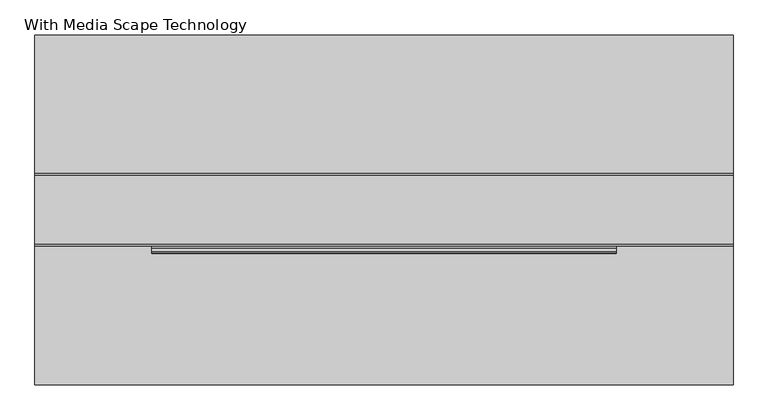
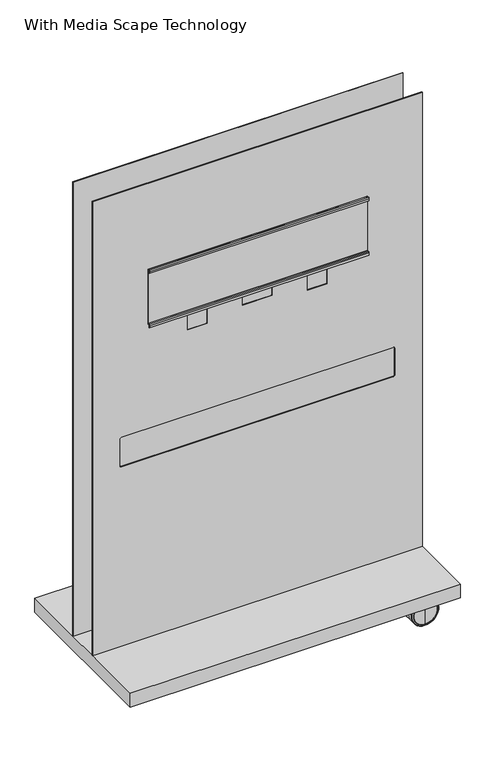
"""IFC4 building model written with IfcOpenShell, lengths in millimetres: furniture geometry, Steelcase Coalesse - Exponents - Storage - Mobile Display Board : With Media Scape Technology."""

from ifc_helpers import new_model, si_unit, point, frame, frame_2d, origin, place, context, project, spatial, polyline, circle_curve, ellipse_curve, trimmed, segment, composite_curve, outline, extrude, faceted_brep, source, transform, mapped, element, save
from ifc_brep_helpers import plane_surface, cylinder_surface, revolved_surface, advanced_brep


def with_media_scape_technology_7c12549f(model_context):
    return source(origin(), model_context, "Body", "SolidModel", [
        extrude(outline(polyline([(1219.2, 231.2568925), (0.0, 231.2568925), (0.0, 233.7968925), (1219.2, 233.7968925), (1219.2, 231.2568925)])), frame((0.0, 0.0, 155.2702), z_axis=(0.0, 0.0, 1.0), x_axis=(1.0, 0.0, 0.0)), (0.0, 0.0, 1.0), 1773.428),
        extrude(outline(polyline([(1928.6982, 1219.2), (1928.6982, 0.0), (155.2702, 0.0), (155.2702, 1219.2), (1928.6982, 1219.2)]), holes=[polyline([(1376.705357, 351.6850016), (1376.705357, 424.2850033), (1304.1054279, 424.2850033), (1304.1054279, 351.6850016), (1376.705357, 351.6850016)]), polyline([(1380.3122589, 664.3150105), (1329.512162, 664.3150105), (1329.512162, 554.8849895), (1380.3122589, 554.8849895), (1380.3122589, 664.3150105)]), polyline([(1376.705357, 867.5149984), (1304.1054279, 867.5149984), (1304.1054279, 794.9149967), (1376.705357, 794.9149967), (1376.705357, 867.5149984)]), composite_curve([segment(polyline([(969.6054239, 107.950003), (969.6054239, 1111.249997)]), True, "CONTINUOUS"), segment(trimmed(circle_curve(frame_2d((963.2554239, 1111.249997)), 6.35), [point((969.6054239, 1111.249997))], [point((963.2554239, 1117.599997))], True, "CARTESIAN"), True, "CONTINUOUS"), segment(polyline([(963.2554239, 1117.599997), (861.6554239, 1117.599997)]), True, "CONTINUOUS"), segment(trimmed(circle_curve(frame_2d((861.6554239, 1111.249997)), 6.35), [point((861.6554239, 1117.599997))], [point((855.3054239, 1111.249997))], True, "CARTESIAN"), True, "CONTINUOUS"), segment(polyline([(855.3054239, 1111.249997), (855.3054239, 107.950003)]), True, "CONTINUOUS"), segment(trimmed(circle_curve(frame_2d((861.6554239, 107.950003)), 6.35), [point((855.3054239, 107.950003))], [point((861.6554239, 101.600003))], True, "CARTESIAN"), True, "CONTINUOUS"), segment(polyline([(861.6554239, 101.600003), (963.2554239, 101.600003)]), True, "CONTINUOUS"), segment(trimmed(circle_curve(frame_2d((963.2554239, 107.950003)), 6.35), [point((963.2554239, 101.600003))], [point((969.6054239, 107.950003))], True, "CARTESIAN"), True, "CONTINUOUS")], self_intersect=False)]), frame((0.0, 106.7968683, 0.0), z_axis=(0.0, 1.0, 0.0), x_axis=(0.0, 0.0, 1.0)), (0.0, 0.0, 1.0), 2.54),
        extrude(outline(composite_curve([segment(polyline([(94.452491, 1584.0963318), (94.452491, 1591.6403974)]), True, "CONTINUOUS"), segment(trimmed(circle_curve(frame_2d((97.8304331, 1591.6403974)), 3.3779422), [point((94.452491, 1591.6403974))], [point((97.8304331, 1595.0183395))], False, "CARTESIAN"), True, "CONTINUOUS"), segment(polyline([(97.8304331, 1595.0183395), (103.7812926, 1595.0183395)]), True, "CONTINUOUS"), segment(trimmed(circle_curve(frame_2d((103.7812926, 1592.0027454)), 3.0155942), [point((103.7812926, 1595.0183395))], [point((106.7968868, 1592.0027454))], False, "CARTESIAN"), True, "CONTINUOUS"), segment(polyline([(106.7968868, 1592.0027454), (106.7968868, 1383.609313)]), True, "CONTINUOUS"), segment(trimmed(circle_curve(frame_2d((103.8807688, 1383.609313)), 2.9161181), [point((106.7968868, 1383.609313))], [point((103.8807688, 1380.693195))], False, "CARTESIAN"), True, "CONTINUOUS"), segment(polyline([(103.8807688, 1380.693195), (97.9328471, 1380.693195)]), True, "CONTINUOUS"), segment(trimmed(circle_curve(frame_2d((97.9328471, 1379.7020401)), 0.9911549), [point((97.9328471, 1380.693195))], [point((96.9416922, 1379.7020401))], True, "CARTESIAN"), True, "CONTINUOUS"), segment(polyline([(96.9416922, 1379.7020401), (96.9416922, 1371.3459457), (94.2747039, 1371.3459457), (94.2747039, 1380.1154779)]), True, "CONTINUOUS"), segment(trimmed(circle_curve(frame_2d((97.5194093, 1380.1154779)), 3.2447054), [point((94.2747039, 1380.1154779))], [point((97.5194093, 1383.3601833))], False, "CARTESIAN"), True, "CONTINUOUS"), segment(polyline([(97.5194093, 1383.3601833), (103.3727516, 1383.3601833)]), True, "CONTINUOUS"), segment(trimmed(circle_curve(frame_2d((103.3727516, 1384.1173116)), 0.7571283), [point((103.3727516, 1383.3601833))], [point((104.1298799, 1384.1173116))], True, "CARTESIAN"), True, "CONTINUOUS"), segment(polyline([(104.1298799, 1384.1173116), (104.1298799, 1591.8476878)]), True, "CONTINUOUS"), segment(trimmed(circle_curve(frame_2d((103.6262165, 1591.8476878)), 0.5036634), [point((104.1298799, 1591.8476878))], [point((103.6262165, 1592.3513512))], True, "CARTESIAN"), True, "CONTINUOUS"), segment(polyline([(103.6262165, 1592.3513512), (98.3051511, 1592.3513512)]), True, "CONTINUOUS"), segment(trimmed(circle_curve(frame_2d((98.3051511, 1591.1656794)), 1.1856717), [point((98.3051511, 1592.3513512))], [point((97.1194793, 1591.1656794))], True, "CARTESIAN"), True, "CONTINUOUS"), segment(polyline([(97.1194793, 1591.1656794), (97.1194793, 1584.0963318), (94.452491, 1584.0963318)]), True, "CONTINUOUS")], self_intersect=False)), frame((203.835, 0.0, 0.0), z_axis=(1.0, 0.0, 0.0), x_axis=(0.0, 1.0, 0.0)), (0.0, 0.0, 1.0), 811.53),
        advanced_brep(
        [(1117.599997, -28.9699484, 93.7248565), (1117.599997, -28.9699484, 7.16417), (1117.599997, -28.9699484, 50.4445132), (1117.599997, -29.195866, 95.950615), (1117.599997, -29.195866, 4.9384115), (1117.599997, -31.890984, 99.0695917), (1117.599997, -31.890984, 1.8194348), (1117.599997, -31.890984, 100.8890265), (1117.599997, -31.890984, 0.0), (1117.599997, -47.5881484, 100.8890265), (1117.599997, -47.5881484, 0.0), (1117.599997, -47.5881484, 67.9452274), (1117.599997, -47.5881484, 32.943799), (1117.599997, -51.5441984, 67.9452274), (1117.599997, -51.5441984, 32.943799), (1117.599997, -51.5441984, 50.4445132)],
        [
            (0, 1, circle_curve(frame((1117.599997, -28.9699484, 50.4445132), z_axis=(0.0, 1.0, 0.0), x_axis=(0.0, 0.0, -1.0)), 43.2803433)),
            (1, 2),
            (2, 0),
            (1, 0, circle_curve(frame((1117.599997, -28.9699484, 50.4445132), z_axis=(0.0, 1.0, 0.0), x_axis=(0.0, 0.0, -1.0)), 43.2803433)),
            (3, 4, circle_curve(frame((1117.599997, -29.195866, 50.4445132), z_axis=(0.0, 1.0, 0.0), x_axis=(0.0, 0.0, -1.0)), 45.5061018)),
            (4, 1, circle_curve(frame((1117.599997, -40.0470836, 7.16417), z_axis=(1.0, 0.0, 0.0), x_axis=(0.0, 1.0, 0.0)), 11.0771352)),
            (0, 3, circle_curve(frame((1117.599997, -40.0470836, 93.7248565), z_axis=(1.0, 0.0, 0.0), x_axis=(0.0, 1.0, 0.0)), 11.0771352)),
            (4, 3, circle_curve(frame((1117.599997, -29.195866, 50.4445132), z_axis=(0.0, 1.0, 0.0), x_axis=(0.0, 0.0, -1.0)), 45.5061018)),
            (5, 6, circle_curve(frame((1117.599997, -31.890984, 50.4445132), z_axis=(0.0, 1.0, 0.0), x_axis=(0.0, 0.0, -1.0)), 48.6250784)),
            (6, 4, circle_curve(frame((1117.599997, -33.3293578, 5.7862568), z_axis=(1.0, 0.0, 0.0), x_axis=(0.0, 1.0, 0.0)), 4.2195493)),
            (3, 5, circle_curve(frame((1117.599997, -33.3293578, 95.1027696), z_axis=(1.0, 0.0, 0.0), x_axis=(0.0, 1.0, 0.0)), 4.2195493)),
            (6, 5, circle_curve(frame((1117.599997, -31.890984, 50.4445132), z_axis=(0.0, 1.0, 0.0), x_axis=(0.0, 0.0, -1.0)), 48.6250784)),
            (7, 8, circle_curve(frame((1117.599997, -31.890984, 50.4445132), z_axis=(0.0, 1.0, 0.0), x_axis=(0.0, 0.0, -1.0)), 50.4445132)),
            (8, 6),
            (5, 7),
            (8, 7, circle_curve(frame((1117.599997, -31.890984, 50.4445132), z_axis=(0.0, 1.0, 0.0), x_axis=(0.0, 0.0, -1.0)), 50.4445132)),
            (9, 10, circle_curve(frame((1117.599997, -47.5881484, 50.4445132), z_axis=(0.0, 1.0, 0.0), x_axis=(0.0, 0.0, -1.0)), 50.4445132)),
            (10, 8),
            (7, 9),
            (10, 9, circle_curve(frame((1117.599997, -47.5881484, 50.4445132), z_axis=(0.0, 1.0, 0.0), x_axis=(0.0, 0.0, -1.0)), 50.4445132)),
            (11, 12, circle_curve(frame((1117.599997, -47.5881484, 50.4445132), z_axis=(0.0, 1.0, 0.0), x_axis=(0.0, 0.0, -1.0)), 17.5007142)),
            (12, 10),
            (9, 11),
            (12, 11, circle_curve(frame((1117.599997, -47.5881484, 50.4445132), z_axis=(0.0, 1.0, 0.0), x_axis=(0.0, 0.0, -1.0)), 17.5007142)),
            (13, 14, circle_curve(frame((1117.599997, -51.5441984, 50.4445132), z_axis=(0.0, 1.0, 0.0), x_axis=(0.0, 0.0, -1.0)), 17.5007142)),
            (14, 12),
            (11, 13),
            (14, 13, circle_curve(frame((1117.599997, -51.5441984, 50.4445132), z_axis=(0.0, 1.0, 0.0), x_axis=(0.0, 0.0, -1.0)), 17.5007142)),
            (15, 14),
            (13, 15),
        ],
        [
            plane_surface(frame((1117.599997, -28.9699484, 50.4445132), z_axis=(0.0, 1.0, 0.0), x_axis=(0.0, 0.0, -1.0))),
            revolved_surface(trimmed(ellipse_curve(frame((1117.599997, -40.0470836, 7.16417), z_axis=(-1.0, 0.0, 0.0), x_axis=(0.0, 1.0, 0.0)), 11.0771352, 11.0771352), [point((1117.599997, -28.9699484, 7.16417))], [point((1117.599997, -29.195866, 4.9384115))], True, "CARTESIAN"), (1117.599997, -32.3354484, 50.4445132), (0.0, -1.0, 0.0)),
            revolved_surface(trimmed(ellipse_curve(frame((1117.599997, -33.3293578, 5.7862568), z_axis=(-1.0, 0.0, 0.0), x_axis=(0.0, 1.0, 0.0)), 4.2195493, 4.2195493), [point((1117.599997, -29.195866, 4.9384115))], [point((1117.599997, -31.890984, 1.8194348))], True, "CARTESIAN"), (1117.599997, -32.3354484, 50.4445132), (0.0, -1.0, 0.0)),
            plane_surface(frame((1117.599997, -31.890984, 50.4445132), z_axis=(0.0, 1.0, 0.0), x_axis=(0.0, 0.0, -1.0))),
            cylinder_surface(frame((1117.599997, -32.3354484, 50.4445132), z_axis=(0.0, -1.0, 0.0), x_axis=(0.0, 0.0, -1.0)), 50.4445132),
            plane_surface(frame((1117.599997, -47.5881484, 50.4445132), z_axis=(0.0, -1.0, 0.0), x_axis=(0.0, 0.0, -1.0))),
            cylinder_surface(frame((1117.599997, -32.3354484, 50.4445132), z_axis=(0.0, -1.0, 0.0), x_axis=(0.0, 0.0, -1.0)), 17.5007142),
            plane_surface(frame((1117.599997, -51.5441984, 50.4445132), z_axis=(0.0, -1.0, 0.0), x_axis=(0.0, 0.0, -1.0))),
        ],
        [
            (0, [[1, 2, 3]]),
            (0, [[4, -3, -2]]),
            (1, [[5, 6, -1, 7]]),
            (1, [[8, -7, -4, -6]]),
            (2, [[9, 10, -5, 11]]),
            (2, [[12, -11, -8, -10]]),
            (3, [[13, 14, -9, 15]]),
            (3, [[16, -15, -12, -14]]),
            (4, [[17, 18, -13, 19]]),
            (4, [[20, -19, -16, -18]]),
            (5, [[21, 22, -17, 23]]),
            (5, [[24, -23, -20, -22]]),
            (6, [[25, 26, -21, 27]]),
            (6, [[28, -27, -24, -26]]),
            (7, [[29, -25, 30]]),
            (7, [[-30, -28, -29]]),
        ],
    ),
        extrude(outline(composite_curve([segment(polyline([(51.3715027, 1147.8132923), (28.4632097, 1147.8132923)]), True, "CONTINUOUS"), segment(trimmed(circle_curve(frame_2d((55.7451933, 1115.4082185)), 42.360305), [point((28.4632097, 1147.8132923))], [point((92.46506, 1136.5280393))], False, "CARTESIAN"), True, "CONTINUOUS"), segment(trimmed(circle_curve(frame_2d((52.6047711, 1117.4750938)), 44.1798299), [point((92.46506, 1136.5280393))], [point((51.3715027, 1073.3124804))], False, "CARTESIAN"), True, "CONTINUOUS"), segment(polyline([(51.3715027, 1073.3124804), (51.3715027, 1147.8132923)]), True, "CONTINUOUS")], self_intersect=False)), frame((0.0, -71.1936132, 0.0), z_axis=(0.0, 1.0, 0.0), x_axis=(0.0, 0.0, 1.0)), (0.0, 0.0, 1.0), 23.6054648),
        extrude(outline(composite_curve([segment(trimmed(circle_curve(frame_2d((1103.2846799, -59.3908808)), 7.6088517), [point((1103.2846799, -51.7820291))], [point((1103.2846799, -66.9997325))], False, "CARTESIAN"), True, "CONTINUOUS"), segment(trimmed(circle_curve(frame_2d((1103.2846799, -59.3908808)), 7.6088517), [point((1103.2846799, -66.9997325))], [point((1103.2846799, -51.7820291))], False, "CARTESIAN"), True, "CONTINUOUS")], self_intersect=False)), frame((0.0, 0.0, 71.2879049), z_axis=(0.0, 0.0, 1.0), x_axis=(1.0, 0.0, 0.0)), (0.0, 0.0, 1.0), 48.3206977),
        extrude(outline(polyline([(1130.9222923, -86.9387325), (1075.8042923, -86.9387325), (1075.8042923, -31.8207325), (1130.9222923, -31.8207325), (1130.9222923, -86.9387325)])), frame((0.0, 0.0, 119.6086027), z_axis=(0.0, 0.0, 1.0), x_axis=(1.0, 0.0, 0.0)), (0.0, 0.0, 1.0), 3.302),
        advanced_brep(
        [(1117.599997, -67.2375632, 67.9452274), (1117.599997, -67.2375632, 32.943799), (1117.599997, -67.2375632, 50.4445132), (1117.599997, -71.1936132, 67.9452274), (1117.599997, -71.1936132, 32.943799), (1117.599997, -71.1936132, 100.8890265), (1117.599997, -71.1936132, 0.0), (1117.599997, -86.8907776, 100.8890265), (1117.599997, -86.8907776, 0.0), (1117.599997, -86.8907776, 99.0695917), (1117.599997, -86.8907776, 1.8194348), (1117.599997, -89.5858956, 95.950615), (1117.599997, -89.5858956, 4.9384115), (1117.599997, -89.8118132, 93.7248565), (1117.599997, -89.8118132, 7.16417), (1117.599997, -89.8118132, 50.4445132)],
        [
            (0, 1, circle_curve(frame((1117.599997, -67.2375632, 50.4445132), z_axis=(0.0, 1.0, 0.0), x_axis=(0.0, 0.0, -1.0)), 17.5007142)),
            (1, 2),
            (2, 0),
            (1, 0, circle_curve(frame((1117.599997, -67.2375632, 50.4445132), z_axis=(0.0, 1.0, 0.0), x_axis=(0.0, 0.0, -1.0)), 17.5007142)),
            (3, 4, circle_curve(frame((1117.599997, -71.1936132, 50.4445132), z_axis=(0.0, 1.0, 0.0), x_axis=(0.0, 0.0, -1.0)), 17.5007142)),
            (4, 1),
            (0, 3),
            (4, 3, circle_curve(frame((1117.599997, -71.1936132, 50.4445132), z_axis=(0.0, 1.0, 0.0), x_axis=(0.0, 0.0, -1.0)), 17.5007142)),
            (5, 6, circle_curve(frame((1117.599997, -71.1936132, 50.4445132), z_axis=(0.0, 1.0, 0.0), x_axis=(0.0, 0.0, -1.0)), 50.4445132)),
            (6, 4),
            (3, 5),
            (6, 5, circle_curve(frame((1117.599997, -71.1936132, 50.4445132), z_axis=(0.0, 1.0, 0.0), x_axis=(0.0, 0.0, -1.0)), 50.4445132)),
            (7, 8, circle_curve(frame((1117.599997, -86.8907776, 50.4445132), z_axis=(0.0, 1.0, 0.0), x_axis=(0.0, 0.0, -1.0)), 50.4445132)),
            (8, 6),
            (5, 7),
            (8, 7, circle_curve(frame((1117.599997, -86.8907776, 50.4445132), z_axis=(0.0, 1.0, 0.0), x_axis=(0.0, 0.0, -1.0)), 50.4445132)),
            (9, 10, circle_curve(frame((1117.599997, -86.8907776, 50.4445132), z_axis=(0.0, 1.0, 0.0), x_axis=(0.0, 0.0, -1.0)), 48.6250784)),
            (10, 8),
            (7, 9),
            (10, 9, circle_curve(frame((1117.599997, -86.8907776, 50.4445132), z_axis=(0.0, 1.0, 0.0), x_axis=(0.0, 0.0, -1.0)), 48.6250784)),
            (11, 12, circle_curve(frame((1117.599997, -89.5858956, 50.4445132), z_axis=(0.0, 1.0, 0.0), x_axis=(0.0, 0.0, -1.0)), 45.5061018)),
            (12, 10, circle_curve(frame((1117.599997, -85.4524038, 5.7862568), z_axis=(1.0, 0.0, 0.0), x_axis=(0.0, 1.0, 0.0)), 4.2195493)),
            (9, 11, circle_curve(frame((1117.599997, -85.4524038, 95.1027696), z_axis=(1.0, 0.0, 0.0), x_axis=(0.0, 1.0, 0.0)), 4.2195493)),
            (12, 11, circle_curve(frame((1117.599997, -89.5858956, 50.4445132), z_axis=(0.0, 1.0, 0.0), x_axis=(0.0, 0.0, -1.0)), 45.5061018)),
            (13, 14, circle_curve(frame((1117.599997, -89.8118132, 50.4445132), z_axis=(0.0, 1.0, 0.0), x_axis=(0.0, 0.0, -1.0)), 43.2803433)),
            (14, 12, circle_curve(frame((1117.599997, -78.734678, 7.16417), z_axis=(1.0, 0.0, 0.0), x_axis=(0.0, 1.0, 0.0)), 11.0771352)),
            (11, 13, circle_curve(frame((1117.599997, -78.734678, 93.7248565), z_axis=(1.0, 0.0, 0.0), x_axis=(0.0, 1.0, 0.0)), 11.0771352)),
            (14, 13, circle_curve(frame((1117.599997, -89.8118132, 50.4445132), z_axis=(0.0, 1.0, 0.0), x_axis=(0.0, 0.0, -1.0)), 43.2803433)),
            (15, 14),
            (13, 15),
        ],
        [
            plane_surface(frame((1117.599997, -67.2375632, 50.4445132), z_axis=(0.0, 1.0, 0.0), x_axis=(0.0, 0.0, -1.0))),
            cylinder_surface(frame((1117.599997, -86.4463132, 50.4445132), z_axis=(0.0, -1.0, 0.0), x_axis=(0.0, 0.0, -1.0)), 17.5007142),
            plane_surface(frame((1117.599997, -71.1936132, 50.4445132), z_axis=(0.0, 1.0, 0.0), x_axis=(0.0, 0.0, -1.0))),
            cylinder_surface(frame((1117.599997, -86.4463132, 50.4445132), z_axis=(0.0, -1.0, 0.0), x_axis=(0.0, 0.0, -1.0)), 50.4445132),
            plane_surface(frame((1117.599997, -86.8907776, 50.4445132), z_axis=(0.0, -1.0, 0.0), x_axis=(0.0, 0.0, -1.0))),
            revolved_surface(trimmed(ellipse_curve(frame((1117.599997, -85.4524038, 5.7862568), z_axis=(-1.0, 0.0, 0.0), x_axis=(0.0, 1.0, 0.0)), 4.2195493, 4.2195493), [point((1117.599997, -86.8907776, 1.8194348))], [point((1117.599997, -89.5858956, 4.9384115))], True, "CARTESIAN"), (1117.599997, -86.4463132, 50.4445132), (0.0, -1.0, 0.0)),
            revolved_surface(trimmed(ellipse_curve(frame((1117.599997, -78.734678, 7.16417), z_axis=(-1.0, 0.0, 0.0), x_axis=(0.0, 1.0, 0.0)), 11.0771352, 11.0771352), [point((1117.599997, -89.5858956, 4.9384115))], [point((1117.599997, -89.8118132, 7.16417))], True, "CARTESIAN"), (1117.599997, -86.4463132, 50.4445132), (0.0, -1.0, 0.0)),
            plane_surface(frame((1117.599997, -89.8118132, 50.4445132), z_axis=(0.0, -1.0, 0.0), x_axis=(0.0, 0.0, -1.0))),
        ],
        [
            (0, [[1, 2, 3]]),
            (0, [[4, -3, -2]]),
            (1, [[5, 6, -1, 7]]),
            (1, [[8, -7, -4, -6]]),
            (2, [[9, 10, -5, 11]]),
            (2, [[12, -11, -8, -10]]),
            (3, [[13, 14, -9, 15]]),
            (3, [[16, -15, -12, -14]]),
            (4, [[17, 18, -13, 19]]),
            (4, [[20, -19, -16, -18]]),
            (5, [[21, 22, -17, 23]]),
            (5, [[24, -23, -20, -22]]),
            (6, [[25, 26, -21, 27]]),
            (6, [[28, -27, -24, -26]]),
            (7, [[29, -25, 30]]),
            (7, [[-30, -28, -29]]),
        ],
    ),
        advanced_brep(
        [(1117.599997, 392.1379592, 67.9452274), (1117.599997, 392.1379592, 32.943799), (1117.599997, 392.1379592, 50.4445132), (1117.599997, 388.1819092, 67.9452274), (1117.599997, 388.1819092, 32.943799), (1117.599997, 388.1819092, 100.8890265), (1117.599997, 388.1819092, 0.0), (1117.599997, 372.4847448, 100.8890265), (1117.599997, 372.4847448, 0.0), (1117.599997, 372.4847448, 99.0695917), (1117.599997, 372.4847448, 1.8194348), (1117.599997, 369.7896268, 95.950615), (1117.599997, 369.7896268, 4.9384115), (1117.599997, 369.5637092, 93.7248565), (1117.599997, 369.5637092, 7.16417), (1117.599997, 369.5637092, 50.4445132)],
        [
            (0, 1, circle_curve(frame((1117.599997, 392.1379592, 50.4445132), z_axis=(0.0, 1.0, 0.0), x_axis=(0.0, 0.0, -1.0)), 17.5007142)),
            (1, 2),
            (2, 0),
            (1, 0, circle_curve(frame((1117.599997, 392.1379592, 50.4445132), z_axis=(0.0, 1.0, 0.0), x_axis=(0.0, 0.0, -1.0)), 17.5007142)),
            (3, 4, circle_curve(frame((1117.599997, 388.1819092, 50.4445132), z_axis=(0.0, 1.0, 0.0), x_axis=(0.0, 0.0, -1.0)), 17.5007142)),
            (4, 1),
            (0, 3),
            (4, 3, circle_curve(frame((1117.599997, 388.1819092, 50.4445132), z_axis=(0.0, 1.0, 0.0), x_axis=(0.0, 0.0, -1.0)), 17.5007142)),
            (5, 6, circle_curve(frame((1117.599997, 388.1819092, 50.4445132), z_axis=(0.0, 1.0, 0.0), x_axis=(0.0, 0.0, -1.0)), 50.4445132)),
            (6, 4),
            (3, 5),
            (6, 5, circle_curve(frame((1117.599997, 388.1819092, 50.4445132), z_axis=(0.0, 1.0, 0.0), x_axis=(0.0, 0.0, -1.0)), 50.4445132)),
            (7, 8, circle_curve(frame((1117.599997, 372.4847448, 50.4445132), z_axis=(0.0, 1.0, 0.0), x_axis=(0.0, 0.0, -1.0)), 50.4445132)),
            (8, 6),
            (5, 7),
            (8, 7, circle_curve(frame((1117.599997, 372.4847448, 50.4445132), z_axis=(0.0, 1.0, 0.0), x_axis=(0.0, 0.0, -1.0)), 50.4445132)),
            (9, 10, circle_curve(frame((1117.599997, 372.4847448, 50.4445132), z_axis=(0.0, 1.0, 0.0), x_axis=(0.0, 0.0, -1.0)), 48.6250784)),
            (10, 8),
            (7, 9),
            (10, 9, circle_curve(frame((1117.599997, 372.4847448, 50.4445132), z_axis=(0.0, 1.0, 0.0), x_axis=(0.0, 0.0, -1.0)), 48.6250784)),
            (11, 12, circle_curve(frame((1117.599997, 369.7896268, 50.4445132), z_axis=(0.0, 1.0, 0.0), x_axis=(0.0, 0.0, -1.0)), 45.5061018)),
            (12, 10, circle_curve(frame((1117.599997, 373.9231187, 5.7862568), z_axis=(1.0, 0.0, 0.0), x_axis=(0.0, 1.0, 0.0)), 4.2195493)),
            (9, 11, circle_curve(frame((1117.599997, 373.9231187, 95.1027696), z_axis=(1.0, 0.0, 0.0), x_axis=(0.0, 1.0, 0.0)), 4.2195493)),
            (12, 11, circle_curve(frame((1117.599997, 369.7896268, 50.4445132), z_axis=(0.0, 1.0, 0.0), x_axis=(0.0, 0.0, -1.0)), 45.5061018)),
            (13, 14, circle_curve(frame((1117.599997, 369.5637092, 50.4445132), z_axis=(0.0, 1.0, 0.0), x_axis=(0.0, 0.0, -1.0)), 43.2803433)),
            (14, 12, circle_curve(frame((1117.599997, 380.6408444, 7.16417), z_axis=(1.0, 0.0, 0.0), x_axis=(0.0, 1.0, 0.0)), 11.0771352)),
            (11, 13, circle_curve(frame((1117.599997, 380.6408444, 93.7248565), z_axis=(1.0, 0.0, 0.0), x_axis=(0.0, 1.0, 0.0)), 11.0771352)),
            (14, 13, circle_curve(frame((1117.599997, 369.5637092, 50.4445132), z_axis=(0.0, 1.0, 0.0), x_axis=(0.0, 0.0, -1.0)), 43.2803433)),
            (15, 14),
            (13, 15),
        ],
        [
            plane_surface(frame((1117.599997, 392.1379592, 50.4445132), z_axis=(0.0, 1.0, 0.0), x_axis=(0.0, 0.0, -1.0))),
            cylinder_surface(frame((1117.599997, 372.9292092, 50.4445132), z_axis=(0.0, -1.0, 0.0), x_axis=(0.0, 0.0, -1.0)), 17.5007142),
            plane_surface(frame((1117.599997, 388.1819092, 50.4445132), z_axis=(0.0, 1.0, 0.0), x_axis=(0.0, 0.0, -1.0))),
            cylinder_surface(frame((1117.599997, 372.9292092, 50.4445132), z_axis=(0.0, -1.0, 0.0), x_axis=(0.0, 0.0, -1.0)), 50.4445132),
            plane_surface(frame((1117.599997, 372.4847448, 50.4445132), z_axis=(0.0, -1.0, 0.0), x_axis=(0.0, 0.0, -1.0))),
            revolved_surface(trimmed(ellipse_curve(frame((1117.599997, 373.9231187, 5.7862568), z_axis=(-1.0, 0.0, 0.0), x_axis=(0.0, 1.0, 0.0)), 4.2195493, 4.2195493), [point((1117.599997, 372.4847448, 1.8194348))], [point((1117.599997, 369.7896268, 4.9384115))], True, "CARTESIAN"), (1117.599997, 372.9292092, 50.4445132), (0.0, -1.0, 0.0)),
            revolved_surface(trimmed(ellipse_curve(frame((1117.599997, 380.6408444, 7.16417), z_axis=(-1.0, 0.0, 0.0), x_axis=(0.0, 1.0, 0.0)), 11.0771352, 11.0771352), [point((1117.599997, 369.7896268, 4.9384115))], [point((1117.599997, 369.5637092, 7.16417))], True, "CARTESIAN"), (1117.599997, 372.9292092, 50.4445132), (0.0, -1.0, 0.0)),
            plane_surface(frame((1117.599997, 369.5637092, 50.4445132), z_axis=(0.0, -1.0, 0.0), x_axis=(0.0, 0.0, -1.0))),
        ],
        [
            (0, [[1, 2, 3]]),
            (0, [[4, -3, -2]]),
            (1, [[5, 6, -1, 7]]),
            (1, [[8, -7, -4, -6]]),
            (2, [[9, 10, -5, 11]]),
            (2, [[12, -11, -8, -10]]),
            (3, [[13, 14, -9, 15]]),
            (3, [[16, -15, -12, -14]]),
            (4, [[17, 18, -13, 19]]),
            (4, [[20, -19, -16, -18]]),
            (5, [[21, 22, -17, 23]]),
            (5, [[24, -23, -20, -22]]),
            (6, [[25, 26, -21, 27]]),
            (6, [[28, -27, -24, -26]]),
            (7, [[29, -25, 30]]),
            (7, [[-30, -28, -29]]),
        ],
    ),
        extrude(outline(composite_curve([segment(polyline([(51.3715027, 1147.8132923), (28.4632097, 1147.8132923)]), True, "CONTINUOUS"), segment(trimmed(circle_curve(frame_2d((55.7451933, 1115.4082185)), 42.360305), [point((28.4632097, 1147.8132923))], [point((92.46506, 1136.5280393))], False, "CARTESIAN"), True, "CONTINUOUS"), segment(trimmed(circle_curve(frame_2d((52.6047711, 1117.4750938)), 44.1798299), [point((92.46506, 1136.5280393))], [point((51.3715027, 1073.3124804))], False, "CARTESIAN"), True, "CONTINUOUS"), segment(polyline([(51.3715027, 1073.3124804), (51.3715027, 1147.8132923)]), True, "CONTINUOUS")], self_intersect=False)), frame((0.0, 388.1819092, 0.0), z_axis=(0.0, 1.0, 0.0), x_axis=(0.0, 0.0, 1.0)), (0.0, 0.0, 1.0), 23.6054648),
        extrude(outline(composite_curve([segment(trimmed(circle_curve(frame_2d((1103.2846799, 399.9846416)), 7.6088517), [point((1103.2846799, 392.3757899))], [point((1103.2846799, 407.5934933))], False, "CARTESIAN"), True, "CONTINUOUS"), segment(trimmed(circle_curve(frame_2d((1103.2846799, 399.9846416)), 7.6088517), [point((1103.2846799, 407.5934933))], [point((1103.2846799, 392.3757899))], False, "CARTESIAN"), True, "CONTINUOUS")], self_intersect=False)), frame((0.0, 0.0, 71.2879049), z_axis=(0.0, 0.0, 1.0), x_axis=(1.0, 0.0, 0.0)), (0.0, 0.0, 1.0), 48.3206977),
        extrude(outline(polyline([(1130.9222923, 427.5324933), (1130.9222923, 372.4144933), (1075.8042923, 372.4144933), (1075.8042923, 427.5324933), (1130.9222923, 427.5324933)])), frame((0.0, 0.0, 119.6086027), z_axis=(0.0, 0.0, 1.0), x_axis=(1.0, 0.0, 0.0)), (0.0, 0.0, 1.0), 3.302),
        advanced_brep(
        [(1117.599997, 430.405574, 93.7248565), (1117.599997, 430.405574, 7.16417), (1117.599997, 430.405574, 50.4445132), (1117.599997, 430.1796564, 95.950615), (1117.599997, 430.1796564, 4.9384115), (1117.599997, 427.4845384, 99.0695917), (1117.599997, 427.4845384, 1.8194348), (1117.599997, 427.4845384, 100.8890265), (1117.599997, 427.4845384, 0.0), (1117.599997, 411.787374, 100.8890265), (1117.599997, 411.787374, 0.0), (1117.599997, 411.787374, 67.9452274), (1117.599997, 411.787374, 32.943799), (1117.599997, 407.831324, 67.9452274), (1117.599997, 407.831324, 32.943799), (1117.599997, 407.831324, 50.4445132)],
        [
            (0, 1, circle_curve(frame((1117.599997, 430.405574, 50.4445132), z_axis=(0.0, 1.0, 0.0), x_axis=(0.0, 0.0, -1.0)), 43.2803433)),
            (1, 2),
            (2, 0),
            (1, 0, circle_curve(frame((1117.599997, 430.405574, 50.4445132), z_axis=(0.0, 1.0, 0.0), x_axis=(0.0, 0.0, -1.0)), 43.2803433)),
            (3, 4, circle_curve(frame((1117.599997, 430.1796564, 50.4445132), z_axis=(0.0, 1.0, 0.0), x_axis=(0.0, 0.0, -1.0)), 45.5061018)),
            (4, 1, circle_curve(frame((1117.599997, 419.3284388, 7.16417), z_axis=(1.0, 0.0, 0.0), x_axis=(0.0, 1.0, 0.0)), 11.0771352)),
            (0, 3, circle_curve(frame((1117.599997, 419.3284388, 93.7248565), z_axis=(1.0, 0.0, 0.0), x_axis=(0.0, 1.0, 0.0)), 11.0771352)),
            (4, 3, circle_curve(frame((1117.599997, 430.1796564, 50.4445132), z_axis=(0.0, 1.0, 0.0), x_axis=(0.0, 0.0, -1.0)), 45.5061018)),
            (5, 6, circle_curve(frame((1117.599997, 427.4845384, 50.4445132), z_axis=(0.0, 1.0, 0.0), x_axis=(0.0, 0.0, -1.0)), 48.6250784)),
            (6, 4, circle_curve(frame((1117.599997, 426.0461646, 5.7862568), z_axis=(1.0, 0.0, 0.0), x_axis=(0.0, 1.0, 0.0)), 4.2195493)),
            (3, 5, circle_curve(frame((1117.599997, 426.0461646, 95.1027696), z_axis=(1.0, 0.0, 0.0), x_axis=(0.0, 1.0, 0.0)), 4.2195493)),
            (6, 5, circle_curve(frame((1117.599997, 427.4845384, 50.4445132), z_axis=(0.0, 1.0, 0.0), x_axis=(0.0, 0.0, -1.0)), 48.6250784)),
            (7, 8, circle_curve(frame((1117.599997, 427.4845384, 50.4445132), z_axis=(0.0, 1.0, 0.0), x_axis=(0.0, 0.0, -1.0)), 50.4445132)),
            (8, 6),
            (5, 7),
            (8, 7, circle_curve(frame((1117.599997, 427.4845384, 50.4445132), z_axis=(0.0, 1.0, 0.0), x_axis=(0.0, 0.0, -1.0)), 50.4445132)),
            (9, 10, circle_curve(frame((1117.599997, 411.787374, 50.4445132), z_axis=(0.0, 1.0, 0.0), x_axis=(0.0, 0.0, -1.0)), 50.4445132)),
            (10, 8),
            (7, 9),
            (10, 9, circle_curve(frame((1117.599997, 411.787374, 50.4445132), z_axis=(0.0, 1.0, 0.0), x_axis=(0.0, 0.0, -1.0)), 50.4445132)),
            (11, 12, circle_curve(frame((1117.599997, 411.787374, 50.4445132), z_axis=(0.0, 1.0, 0.0), x_axis=(0.0, 0.0, -1.0)), 17.5007142)),
            (12, 10),
            (9, 11),
            (12, 11, circle_curve(frame((1117.599997, 411.787374, 50.4445132), z_axis=(0.0, 1.0, 0.0), x_axis=(0.0, 0.0, -1.0)), 17.5007142)),
            (13, 14, circle_curve(frame((1117.599997, 407.831324, 50.4445132), z_axis=(0.0, 1.0, 0.0), x_axis=(0.0, 0.0, -1.0)), 17.5007142)),
            (14, 12),
            (11, 13),
            (14, 13, circle_curve(frame((1117.599997, 407.831324, 50.4445132), z_axis=(0.0, 1.0, 0.0), x_axis=(0.0, 0.0, -1.0)), 17.5007142)),
            (15, 14),
            (13, 15),
        ],
        [
            plane_surface(frame((1117.599997, 430.405574, 50.4445132), z_axis=(0.0, 1.0, 0.0), x_axis=(0.0, 0.0, -1.0))),
            revolved_surface(trimmed(ellipse_curve(frame((1117.599997, 419.3284388, 7.16417), z_axis=(-1.0, 0.0, 0.0), x_axis=(0.0, 1.0, 0.0)), 11.0771352, 11.0771352), [point((1117.599997, 430.405574, 7.16417))], [point((1117.599997, 430.1796564, 4.9384115))], True, "CARTESIAN"), (1117.599997, 427.040074, 50.4445132), (0.0, -1.0, 0.0)),
            revolved_surface(trimmed(ellipse_curve(frame((1117.599997, 426.0461646, 5.7862568), z_axis=(-1.0, 0.0, 0.0), x_axis=(0.0, 1.0, 0.0)), 4.2195493, 4.2195493), [point((1117.599997, 430.1796564, 4.9384115))], [point((1117.599997, 427.4845384, 1.8194348))], True, "CARTESIAN"), (1117.599997, 427.040074, 50.4445132), (0.0, -1.0, 0.0)),
            plane_surface(frame((1117.599997, 427.4845384, 50.4445132), z_axis=(0.0, 1.0, 0.0), x_axis=(0.0, 0.0, -1.0))),
            cylinder_surface(frame((1117.599997, 427.040074, 50.4445132), z_axis=(0.0, -1.0, 0.0), x_axis=(0.0, 0.0, -1.0)), 50.4445132),
            plane_surface(frame((1117.599997, 411.787374, 50.4445132), z_axis=(0.0, -1.0, 0.0), x_axis=(0.0, 0.0, -1.0))),
            cylinder_surface(frame((1117.599997, 427.040074, 50.4445132), z_axis=(0.0, -1.0, 0.0), x_axis=(0.0, 0.0, -1.0)), 17.5007142),
            plane_surface(frame((1117.599997, 407.831324, 50.4445132), z_axis=(0.0, -1.0, 0.0), x_axis=(0.0, 0.0, -1.0))),
        ],
        [
            (0, [[1, 2, 3]]),
            (0, [[4, -3, -2]]),
            (1, [[5, 6, -1, 7]]),
            (1, [[8, -7, -4, -6]]),
            (2, [[9, 10, -5, 11]]),
            (2, [[12, -11, -8, -10]]),
            (3, [[13, 14, -9, 15]]),
            (3, [[16, -15, -12, -14]]),
            (4, [[17, 18, -13, 19]]),
            (4, [[20, -19, -16, -18]]),
            (5, [[21, 22, -17, 23]]),
            (5, [[24, -23, -20, -22]]),
            (6, [[25, 26, -21, 27]]),
            (6, [[28, -27, -24, -26]]),
            (7, [[29, -25, 30]]),
            (7, [[-30, -28, -29]]),
        ],
    ),
        advanced_brep(
        [(121.6278984, 392.1379592, 67.9452274), (121.6278984, 392.1379592, 32.943799), (121.6278984, 392.1379592, 50.4445132), (121.6278984, 388.1819092, 67.9452274), (121.6278984, 388.1819092, 32.943799), (121.6278984, 388.1819092, 100.8890265), (121.6278984, 388.1819092, 0.0), (121.6278984, 372.4847448, 100.8890265), (121.6278984, 372.4847448, 0.0), (121.6278984, 372.4847448, 99.0695917), (121.6278984, 372.4847448, 1.8194348), (121.6278984, 369.7896268, 95.950615), (121.6278984, 369.7896268, 4.9384115), (121.6278984, 369.5637092, 93.7248565), (121.6278984, 369.5637092, 7.16417), (121.6278984, 369.5637092, 50.4445132)],
        [
            (0, 1, circle_curve(frame((121.6278984, 392.1379592, 50.4445132), z_axis=(0.0, 1.0, 0.0), x_axis=(0.0, 0.0, -1.0)), 17.5007142)),
            (1, 2),
            (2, 0),
            (1, 0, circle_curve(frame((121.6278984, 392.1379592, 50.4445132), z_axis=(0.0, 1.0, 0.0), x_axis=(0.0, 0.0, -1.0)), 17.5007142)),
            (3, 4, circle_curve(frame((121.6278984, 388.1819092, 50.4445132), z_axis=(0.0, 1.0, 0.0), x_axis=(0.0, 0.0, -1.0)), 17.5007142)),
            (4, 1),
            (0, 3),
            (4, 3, circle_curve(frame((121.6278984, 388.1819092, 50.4445132), z_axis=(0.0, 1.0, 0.0), x_axis=(0.0, 0.0, -1.0)), 17.5007142)),
            (5, 6, circle_curve(frame((121.6278984, 388.1819092, 50.4445132), z_axis=(0.0, 1.0, 0.0), x_axis=(0.0, 0.0, -1.0)), 50.4445132)),
            (6, 4),
            (3, 5),
            (6, 5, circle_curve(frame((121.6278984, 388.1819092, 50.4445132), z_axis=(0.0, 1.0, 0.0), x_axis=(0.0, 0.0, -1.0)), 50.4445132)),
            (7, 8, circle_curve(frame((121.6278984, 372.4847448, 50.4445132), z_axis=(0.0, 1.0, 0.0), x_axis=(0.0, 0.0, -1.0)), 50.4445132)),
            (8, 6),
            (5, 7),
            (8, 7, circle_curve(frame((121.6278984, 372.4847448, 50.4445132), z_axis=(0.0, 1.0, 0.0), x_axis=(0.0, 0.0, -1.0)), 50.4445132)),
            (9, 10, circle_curve(frame((121.6278984, 372.4847448, 50.4445132), z_axis=(0.0, 1.0, 0.0), x_axis=(0.0, 0.0, -1.0)), 48.6250784)),
            (10, 8),
            (7, 9),
            (10, 9, circle_curve(frame((121.6278984, 372.4847448, 50.4445132), z_axis=(0.0, 1.0, 0.0), x_axis=(0.0, 0.0, -1.0)), 48.6250784)),
            (11, 12, circle_curve(frame((121.6278984, 369.7896268, 50.4445132), z_axis=(0.0, 1.0, 0.0), x_axis=(0.0, 0.0, -1.0)), 45.5061018)),
            (12, 10, circle_curve(frame((121.6278984, 373.9231187, 5.7862568), z_axis=(1.0, 0.0, 0.0), x_axis=(0.0, -1.0, 0.0)), 4.2195493)),
            (9, 11, circle_curve(frame((121.6278984, 373.9231187, 95.1027696), z_axis=(1.0, 0.0, 0.0), x_axis=(0.0, -1.0, 0.0)), 4.2195493)),
            (12, 11, circle_curve(frame((121.6278984, 369.7896268, 50.4445132), z_axis=(0.0, 1.0, 0.0), x_axis=(0.0, 0.0, -1.0)), 45.5061018)),
            (13, 14, circle_curve(frame((121.6278984, 369.5637092, 50.4445132), z_axis=(0.0, 1.0, 0.0), x_axis=(0.0, 0.0, -1.0)), 43.2803433)),
            (14, 12, circle_curve(frame((121.6278984, 380.6408444, 7.16417), z_axis=(1.0, 0.0, 0.0), x_axis=(0.0, -1.0, 0.0)), 11.0771352)),
            (11, 13, circle_curve(frame((121.6278984, 380.6408444, 93.7248565), z_axis=(1.0, 0.0, 0.0), x_axis=(0.0, -1.0, 0.0)), 11.0771352)),
            (14, 13, circle_curve(frame((121.6278984, 369.5637092, 50.4445132), z_axis=(0.0, 1.0, 0.0), x_axis=(0.0, 0.0, -1.0)), 43.2803433)),
            (15, 14),
            (13, 15),
        ],
        [
            plane_surface(frame((121.6278984, 392.1379592, 50.4445132), z_axis=(0.0, 1.0, 0.0), x_axis=(0.0, 0.0, -1.0))),
            cylinder_surface(frame((121.6278984, 372.9292092, 50.4445132), z_axis=(0.0, -1.0, 0.0), x_axis=(0.0, 0.0, -1.0)), 17.5007142),
            plane_surface(frame((121.6278984, 388.1819092, 50.4445132), z_axis=(0.0, 1.0, 0.0), x_axis=(0.0, 0.0, -1.0))),
            cylinder_surface(frame((121.6278984, 372.9292092, 50.4445132), z_axis=(0.0, -1.0, 0.0), x_axis=(0.0, 0.0, -1.0)), 50.4445132),
            plane_surface(frame((121.6278984, 372.4847448, 50.4445132), z_axis=(0.0, -1.0, 0.0), x_axis=(0.0, 0.0, -1.0))),
            revolved_surface(trimmed(ellipse_curve(frame((121.6278984, 373.9231187, 5.7862568), z_axis=(-1.0, 0.0, 0.0), x_axis=(0.0, -1.0, 0.0)), 4.2195493, 4.2195493), [point((121.6278984, 372.4847448, 1.8194348))], [point((121.6278984, 369.7896268, 4.9384115))], True, "CARTESIAN"), (121.6278984, 372.9292092, 50.4445132), (0.0, -1.0, 0.0)),
            revolved_surface(trimmed(ellipse_curve(frame((121.6278984, 380.6408444, 7.16417), z_axis=(-1.0, 0.0, 0.0), x_axis=(0.0, -1.0, 0.0)), 11.0771352, 11.0771352), [point((121.6278984, 369.7896268, 4.9384115))], [point((121.6278984, 369.5637092, 7.16417))], True, "CARTESIAN"), (121.6278984, 372.9292092, 50.4445132), (0.0, -1.0, 0.0)),
            plane_surface(frame((121.6278984, 369.5637092, 50.4445132), z_axis=(0.0, -1.0, 0.0), x_axis=(0.0, 0.0, -1.0))),
        ],
        [
            (0, [[1, 2, 3]]),
            (0, [[4, -3, -2]]),
            (1, [[5, 6, -1, 7]]),
            (1, [[8, -7, -4, -6]]),
            (2, [[9, 10, -5, 11]]),
            (2, [[12, -11, -8, -10]]),
            (3, [[13, 14, -9, 15]]),
            (3, [[16, -15, -12, -14]]),
            (4, [[17, 18, -13, 19]]),
            (4, [[20, -19, -16, -18]]),
            (5, [[21, 22, -17, 23]]),
            (5, [[24, -23, -20, -22]]),
            (6, [[25, 26, -21, 27]]),
            (6, [[28, -27, -24, -26]]),
            (7, [[29, -25, 30]]),
            (7, [[-30, -28, -29]]),
        ],
    ),
        extrude(outline(composite_curve([segment(polyline([(51.3715027, 152.4507984), (28.4632097, 152.4507984)]), True, "CONTINUOUS"), segment(trimmed(circle_curve(frame_2d((55.7451933, 120.0457245)), 42.360305), [point((28.4632097, 152.4507984))], [point((92.46506, 141.1655453))], False, "CARTESIAN"), True, "CONTINUOUS"), segment(trimmed(circle_curve(frame_2d((52.6047711, 122.1125998)), 44.1798299), [point((92.46506, 141.1655453))], [point((51.3715027, 77.9499865))], False, "CARTESIAN"), True, "CONTINUOUS"), segment(polyline([(51.3715027, 77.9499865), (51.3715027, 152.4507984)]), True, "CONTINUOUS")], self_intersect=False)), frame((0.0, 388.1819092, 0.0), z_axis=(0.0, 1.0, 0.0), x_axis=(0.0, 0.0, 1.0)), (0.0, 0.0, 1.0), 23.6054648),
        extrude(outline(composite_curve([segment(trimmed(circle_curve(frame_2d((87.284686, 399.9846416)), 7.6088517), [point((87.284686, 392.3757899))], [point((87.284686, 407.5934933))], False, "CARTESIAN"), True, "CONTINUOUS"), segment(trimmed(circle_curve(frame_2d((87.284686, 399.9846416)), 7.6088517), [point((87.284686, 407.5934933))], [point((87.284686, 392.3757899))], False, "CARTESIAN"), True, "CONTINUOUS")], self_intersect=False)), frame((0.0, 0.0, 71.2879049), z_axis=(0.0, 0.0, 1.0), x_axis=(1.0, 0.0, 0.0)), (0.0, 0.0, 1.0), 48.3206977),
        extrude(outline(polyline([(114.9222984, 427.5324933), (114.9222984, 372.4144933), (59.8042984, 372.4144933), (59.8042984, 427.5324933), (114.9222984, 427.5324933)])), frame((0.0, 0.0, 119.6086027), z_axis=(0.0, 0.0, 1.0), x_axis=(1.0, 0.0, 0.0)), (0.0, 0.0, 1.0), 3.302),
        advanced_brep(
        [(121.6278984, 430.405574, 93.7248565), (121.6278984, 430.405574, 7.16417), (121.6278984, 430.405574, 50.4445132), (121.6278984, 430.1796564, 95.950615), (121.6278984, 430.1796564, 4.9384115), (121.6278984, 427.4845384, 99.0695917), (121.6278984, 427.4845384, 1.8194348), (121.6278984, 427.4845384, 100.8890265), (121.6278984, 427.4845384, 0.0), (121.6278984, 411.787374, 100.8890265), (121.6278984, 411.787374, 0.0), (121.6278984, 411.787374, 67.9452274), (121.6278984, 411.787374, 32.943799), (121.6278984, 407.831324, 67.9452274), (121.6278984, 407.831324, 32.943799), (121.6278984, 407.831324, 50.4445132)],
        [
            (0, 1, circle_curve(frame((121.6278984, 430.405574, 50.4445132), z_axis=(0.0, 1.0, 0.0), x_axis=(0.0, 0.0, -1.0)), 43.2803433)),
            (1, 2),
            (2, 0),
            (1, 0, circle_curve(frame((121.6278984, 430.405574, 50.4445132), z_axis=(0.0, 1.0, 0.0), x_axis=(0.0, 0.0, -1.0)), 43.2803433)),
            (3, 4, circle_curve(frame((121.6278984, 430.1796564, 50.4445132), z_axis=(0.0, 1.0, 0.0), x_axis=(0.0, 0.0, -1.0)), 45.5061018)),
            (4, 1, circle_curve(frame((121.6278984, 419.3284388, 7.16417), z_axis=(1.0, 0.0, 0.0), x_axis=(0.0, 1.0, 0.0)), 11.0771352)),
            (0, 3, circle_curve(frame((121.6278984, 419.3284388, 93.7248565), z_axis=(1.0, 0.0, 0.0), x_axis=(0.0, 1.0, 0.0)), 11.0771352)),
            (4, 3, circle_curve(frame((121.6278984, 430.1796564, 50.4445132), z_axis=(0.0, 1.0, 0.0), x_axis=(0.0, 0.0, -1.0)), 45.5061018)),
            (5, 6, circle_curve(frame((121.6278984, 427.4845384, 50.4445132), z_axis=(0.0, 1.0, 0.0), x_axis=(0.0, 0.0, -1.0)), 48.6250784)),
            (6, 4, circle_curve(frame((121.6278984, 426.0461646, 5.7862568), z_axis=(1.0, 0.0, 0.0), x_axis=(0.0, 1.0, 0.0)), 4.2195493)),
            (3, 5, circle_curve(frame((121.6278984, 426.0461646, 95.1027696), z_axis=(1.0, 0.0, 0.0), x_axis=(0.0, 1.0, 0.0)), 4.2195493)),
            (6, 5, circle_curve(frame((121.6278984, 427.4845384, 50.4445132), z_axis=(0.0, 1.0, 0.0), x_axis=(0.0, 0.0, -1.0)), 48.6250784)),
            (7, 8, circle_curve(frame((121.6278984, 427.4845384, 50.4445132), z_axis=(0.0, 1.0, 0.0), x_axis=(0.0, 0.0, -1.0)), 50.4445132)),
            (8, 6),
            (5, 7),
            (8, 7, circle_curve(frame((121.6278984, 427.4845384, 50.4445132), z_axis=(0.0, 1.0, 0.0), x_axis=(0.0, 0.0, -1.0)), 50.4445132)),
            (9, 10, circle_curve(frame((121.6278984, 411.787374, 50.4445132), z_axis=(0.0, 1.0, 0.0), x_axis=(0.0, 0.0, -1.0)), 50.4445132)),
            (10, 8),
            (7, 9),
            (10, 9, circle_curve(frame((121.6278984, 411.787374, 50.4445132), z_axis=(0.0, 1.0, 0.0), x_axis=(0.0, 0.0, -1.0)), 50.4445132)),
            (11, 12, circle_curve(frame((121.6278984, 411.787374, 50.4445132), z_axis=(0.0, 1.0, 0.0), x_axis=(0.0, 0.0, -1.0)), 17.5007142)),
            (12, 10),
            (9, 11),
            (12, 11, circle_curve(frame((121.6278984, 411.787374, 50.4445132), z_axis=(0.0, 1.0, 0.0), x_axis=(0.0, 0.0, -1.0)), 17.5007142)),
            (13, 14, circle_curve(frame((121.6278984, 407.831324, 50.4445132), z_axis=(0.0, 1.0, 0.0), x_axis=(0.0, 0.0, -1.0)), 17.5007142)),
            (14, 12),
            (11, 13),
            (14, 13, circle_curve(frame((121.6278984, 407.831324, 50.4445132), z_axis=(0.0, 1.0, 0.0), x_axis=(0.0, 0.0, -1.0)), 17.5007142)),
            (15, 14),
            (13, 15),
        ],
        [
            plane_surface(frame((121.6278984, 430.405574, 50.4445132), z_axis=(0.0, 1.0, 0.0), x_axis=(0.0, 0.0, -1.0))),
            revolved_surface(trimmed(ellipse_curve(frame((121.6278984, 419.3284388, 7.16417), z_axis=(-1.0, 0.0, 0.0), x_axis=(0.0, 1.0, 0.0)), 11.0771352, 11.0771352), [point((121.6278984, 430.405574, 7.16417))], [point((121.6278984, 430.1796564, 4.9384115))], True, "CARTESIAN"), (121.6278984, 427.040074, 50.4445132), (0.0, -1.0, 0.0)),
            revolved_surface(trimmed(ellipse_curve(frame((121.6278984, 426.0461646, 5.7862568), z_axis=(-1.0, 0.0, 0.0), x_axis=(0.0, 1.0, 0.0)), 4.2195493, 4.2195493), [point((121.6278984, 430.1796564, 4.9384115))], [point((121.6278984, 427.4845384, 1.8194348))], True, "CARTESIAN"), (121.6278984, 427.040074, 50.4445132), (0.0, -1.0, 0.0)),
            plane_surface(frame((121.6278984, 427.4845384, 50.4445132), z_axis=(0.0, 1.0, 0.0), x_axis=(0.0, 0.0, -1.0))),
            cylinder_surface(frame((121.6278984, 427.040074, 50.4445132), z_axis=(0.0, -1.0, 0.0), x_axis=(0.0, 0.0, -1.0)), 50.4445132),
            plane_surface(frame((121.6278984, 411.787374, 50.4445132), z_axis=(0.0, -1.0, 0.0), x_axis=(0.0, 0.0, -1.0))),
            cylinder_surface(frame((121.6278984, 427.040074, 50.4445132), z_axis=(0.0, -1.0, 0.0), x_axis=(0.0, 0.0, -1.0)), 17.5007142),
            plane_surface(frame((121.6278984, 407.831324, 50.4445132), z_axis=(0.0, -1.0, 0.0), x_axis=(0.0, 0.0, -1.0))),
        ],
        [
            (0, [[1, 2, 3]]),
            (0, [[4, -3, -2]]),
            (1, [[5, 6, -1, 7]]),
            (1, [[8, -7, -4, -6]]),
            (2, [[9, 10, -5, 11]]),
            (2, [[12, -11, -8, -10]]),
            (3, [[13, 14, -9, 15]]),
            (3, [[16, -15, -12, -14]]),
            (4, [[17, 18, -13, 19]]),
            (4, [[20, -19, -16, -18]]),
            (5, [[21, 22, -17, 23]]),
            (5, [[24, -23, -20, -22]]),
            (6, [[25, 26, -21, 27]]),
            (6, [[28, -27, -24, -26]]),
            (7, [[29, -25, 30]]),
            (7, [[-30, -28, -29]]),
        ],
    ),
        faceted_brep([(1219.2, 476.0112868, 155.2702), (0.0, 476.0112868, 155.2702), (0.0, -135.417526, 155.2702), (1219.2, -135.417526, 155.2702), (1206.4999996, 454.6498863, 122.9106027), (1206.4999996, -114.0561255, 122.9106027), (12.7000004, -114.0561255, 122.9106027), (12.7000004, 454.6498863, 122.9106027), (1219.2, 476.0112868, 101.2952), (0.0, 476.0112868, 101.2952), (0.0, -135.417526, 101.2952), (1219.2, -135.417526, 101.2952), (1206.4999996, 454.6498863, 101.2952), (12.7000004, 454.6498863, 101.2952), (12.7000004, -114.0561255, 101.2952), (1206.4999996, -114.0561255, 101.2952)], [[[0, 1, 2, 3]], [[4, 5, 6, 7]], [[1, 0, 8, 9]], [[2, 1, 9, 10]], [[3, 2, 10, 11]], [[8, 0, 3, 11]], [[8, 11, 10, 9], [12, 13, 14, 15]], [[12, 15, 5, 4]], [[15, 14, 6, 5]], [[14, 13, 7, 6]], [[13, 12, 4, 7]]]),
    ])


if __name__ == "__main__":
    model = new_model("IFC4")
    model_context = context("Model", 3, world=origin())
    ifc_project = project(units=[si_unit("LENGTHUNIT", "METRE", prefix="MILLI")], contexts=[model_context])
    site = spatial("IfcSite", under=ifc_project)
    building = spatial("IfcBuilding", under=site)
    placement = place(None, origin())
    with_media_scape_technology_shape = with_media_scape_technology_7c12549f(model_context)
    element("IfcFurniture", 1, ObjectType="Steelcase Coalesse - Exponents - Storage - Mobile Display Board : With Media Scape Technology", at=placement, inside=building, context=model_context, shape_type="MappedRepresentation", body=[
        mapped(with_media_scape_technology_shape, transform((0.0, 0.0, 0.0), x_axis=(1.0, 0.0, 0.0), y_axis=(0.0, 1.0, 0.0), z_axis=(0.0, 0.0, 1.0))),
    ])
    save(model, "model.ifc")
